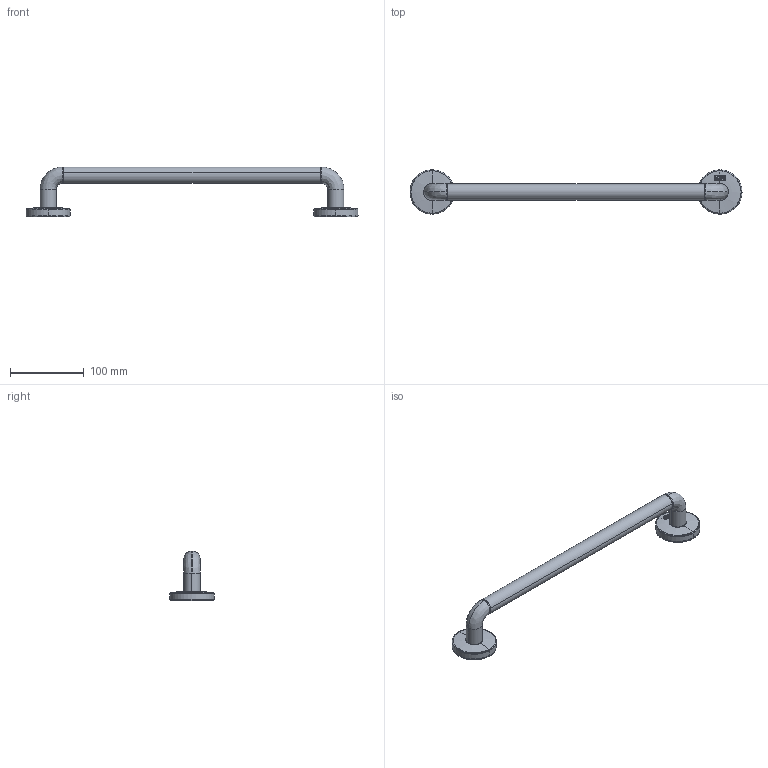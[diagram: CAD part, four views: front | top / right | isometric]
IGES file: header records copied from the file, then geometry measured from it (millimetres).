
Start section: SolidWorks IGES file using analytic representation for surfaces
Global section: file name: D:\Weijuan\Desktop\2900211VW.IGS; native system: SolidWorks 2010; preprocessor: SolidWorks 2010; author: weijuan; date: 151120.140306; units: inch
Bounding box: 450 x 60 x 67.5 mm (x, y, z)
Surface area: 56918.7 mm2 (no closed solid volume)
Topology: 0 solids, 0 shells, 386 faces, 3125 edges, 3117 vertices
Faces by surface type: revolution 210, bspline 176
